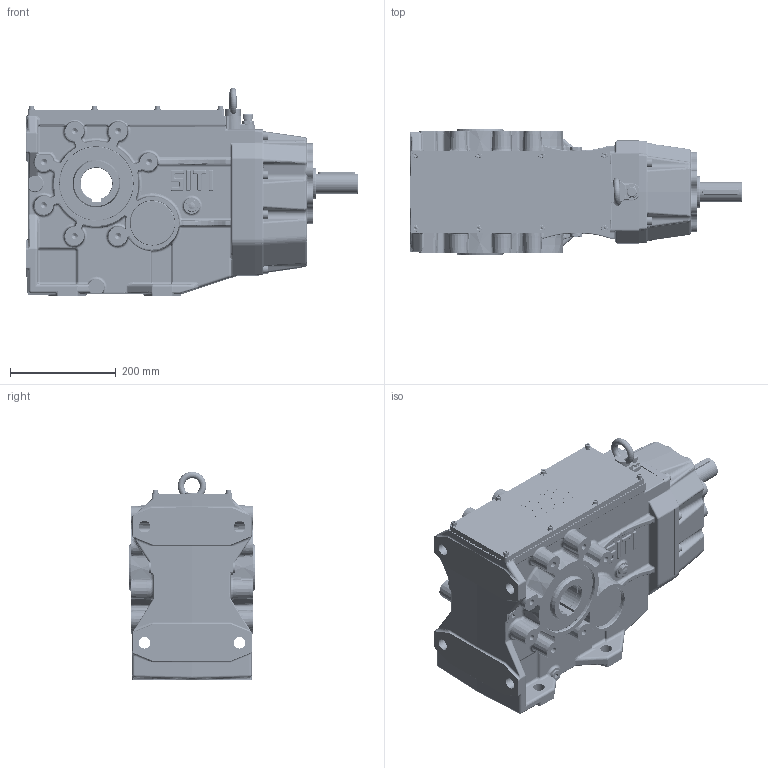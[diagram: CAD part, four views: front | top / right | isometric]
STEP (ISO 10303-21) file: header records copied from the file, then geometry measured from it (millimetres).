
FILE_DESCRIPTION((''),'2;1');
FILE_NAME('O:\Figurini\Figurini BH\3D\125\BH_125 C.stp','2013-05-08T14:41:23',('d.iannaccio'),(''),'Autodesk Inventor 2012','Autodesk Inventor 2012','');
FILE_SCHEMA(('AUTOMOTIVE_DESIGN { 1 0 10303 214 1 1 1 1 }'));
Length unit declared in the file: millimetre
Products named in the file (1): BH_125 C
Bounding box: 629.01 x 240 x 394.95 mm (x, y, z)
Volume: 8878403.2 mm3; surface area: 1772059.3 mm2
Topology: 46 solids, 48 shells, 3861 faces, 9223 edges, 5373 vertices
Faces by surface type: cylinder 1141, plane 980, bspline 969, torus 363, cone 230, sphere 178
Full cylindrical faces by diameter (mm): 4.917 x8, 6 x16, 6.4 x8, 6.647 x8, 6.87 x1, 7 x8, 8 x1, 8.376 x8, 8.4 x1, 10 x20, 10.106 x3, 11 x10, 11.835 x14, 12 x8, 12.5 x8, 14.95 x8, 16 x9, 19 x1, 19.5 x1, 20 x1, 22 x8, 30 x2, 37.5 x1, 38 x1, 39.386 x1, 39.986 x2, 54.765 x1, 57 x1, 59.4 x1, 60 x5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
Entity records: 140351 total; most frequent: CARTESIAN_POINT 54606, ORIENTED_EDGE 16886, DIRECTION 16394, EDGE_CURVE 8443, AXIS2_PLACEMENT_3D 6798, VERTEX_POINT 5199, EDGE_LOOP 4458, STYLED_ITEM 3906
